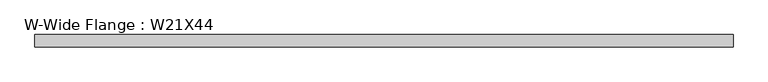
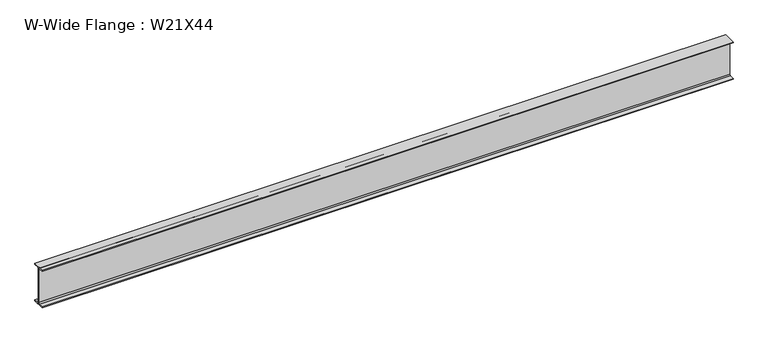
"""IFC4 building model written with IfcOpenShell, lengths in millimetres: beam geometry, W-Wide Flange : W21X44."""

import ifcopenshell
import ifcopenshell.guid

model = None  # the IFC model being written
_history = None  # IfcOwnerHistory: only IFC2X3 demands one
_inside = {}  # id of a spatial element -> (the spatial element, [elements in it])
_under = {}  # id of a project, library or spatial element -> (it, [spatial elements below it])
_declared = {}  # id of a project -> (the project, [libraries it declares])
_typed = {}  # id of a type object -> (the type object, [elements of that type])
_made_of = {}  # id of a material, layer set ... -> (it, [elements and type objects made of it])


def new_model(schema):
    """Start an empty IFC model of exactly this schema.

    Asked for "IFC4X3", IfcOpenShell would pick the latest addendum, in which some entities
    have other attributes; the version numbers below select the first issue.
    IFC2X3 requires an IfcOwnerHistory on every rooted entity: one is made here for all.
    """
    global model, _history
    if schema == "IFC4X3":
        model = ifcopenshell.file(schema_version=(4, 3, 0, 0))
    else:
        model = ifcopenshell.file(schema=schema)
    _inside.clear()
    _under.clear()
    _declared.clear()
    _typed.clear()
    _made_of.clear()
    _history = None
    if model.schema == "IFC2X3":
        org = make("IfcOrganization", Name="unknown")
        user = make(
            "IfcPersonAndOrganization",
            ThePerson=make("IfcPerson", FamilyName="unknown"),
            TheOrganization=org,
        )
        app = make(
            "IfcApplication",
            ApplicationDeveloper=org,
            Version="unknown",
            ApplicationFullName="unknown",
            ApplicationIdentifier="unknown",
        )
        _history = make(
            "IfcOwnerHistory",
            OwningUser=user,
            OwningApplication=app,
            ChangeAction="ADDED",
            CreationDate=0,
        )
    return model


def make(cls, **values):
    """One entity of the class cls with the attributes given. An attribute that is None is left unset."""
    return model.create_entity(
        cls, **{name: value for name, value in values.items() if value is not None}
    )


def rooted(cls, **values):
    """An entity with a GlobalId (a new one), such as an element, a storey or a relation."""
    return make(cls, GlobalId=ifcopenshell.guid.new(), OwnerHistory=_history, **values)


def si_unit(unit_type, name, prefix=None):
    """IfcSIUnit, for example si_unit("LENGTHUNIT", "METRE", prefix="MILLI")."""
    return make("IfcSIUnit", UnitType=unit_type, Prefix=prefix, Name=name)


def assignment(units):
    """IfcUnitAssignment: the units of a project."""
    return None if units is None else make("IfcUnitAssignment", Units=units)


def point(xyz):
    """IfcCartesianPoint."""
    return None if xyz is None else make("IfcCartesianPoint", Coordinates=xyz)


def direction(xyz):
    """IfcDirection."""
    return None if xyz is None else make("IfcDirection", DirectionRatios=xyz)


def frame(location, z_axis=None, x_axis=None):
    """IfcAxis2Placement3D, a coordinate frame: its origin and axes. An axis left out is left unset."""
    return make(
        "IfcAxis2Placement3D",
        Location=point(location),
        Axis=direction(z_axis),
        RefDirection=direction(x_axis),
    )


def frame_2d(location, x_axis=None):
    """IfcAxis2Placement2D, a coordinate frame in the plane: its origin and x axis."""
    return make(
        "IfcAxis2Placement2D", Location=point(location), RefDirection=direction(x_axis)
    )


def origin():
    """The frame at (0, 0, 0) with its axes left unset."""
    return frame((0.0, 0.0, 0.0))


def place(relative_to, where):
    """IfcLocalPlacement: puts the frame where relative to a parent placement (None: the world)."""
    return make(
        "IfcLocalPlacement", PlacementRelTo=relative_to, RelativePlacement=where
    )


def context(
    kind, dimensions, precision=None, world=None, true_north=None, identifier=None
):
    """IfcGeometricRepresentationContext, for example the 3D "Model" context."""
    return make(
        "IfcGeometricRepresentationContext",
        ContextIdentifier=identifier,
        ContextType=kind,
        CoordinateSpaceDimension=dimensions,
        Precision=precision,
        WorldCoordinateSystem=world,
        TrueNorth=true_north,
    )


def project(units=None, contexts=None):
    """IfcProject with its units and contexts."""
    return rooted(
        "IfcProject",
        Name="project",
        RepresentationContexts=contexts,
        UnitsInContext=assignment(units),
    )


def spatial(cls, under=None, at=None, **own):
    """A site, building, storey or space (cls), placed at a placement, below another one or the project."""
    s = rooted(cls, ObjectPlacement=at, **own)
    if under is not None:
        _under.setdefault(under.id(), (under, []))[1].append(s)
    return s


def polyline(points):
    """IfcPolyline through the points."""
    return make("IfcPolyline", Points=[point(p) for p in points])


def circle_curve(where, radius):
    """IfcCircle in the frame where."""
    return make("IfcCircle", Position=where, Radius=radius)


def trimmed(basis, trim1, trim2, sense, master):
    """IfcTrimmedCurve: the piece of a basis curve between two trims."""
    return make(
        "IfcTrimmedCurve",
        BasisCurve=basis,
        Trim1=trim1,
        Trim2=trim2,
        SenseAgreement=sense,
        MasterRepresentation=master,
    )


def segment(curve, same_sense, transition):
    """IfcCompositeCurveSegment."""
    return make(
        "IfcCompositeCurveSegment",
        Transition=transition,
        SameSense=same_sense,
        ParentCurve=curve,
    )


def composite_curve(segments, self_intersect=None):
    """IfcCompositeCurve: segments joined end to end."""
    return make("IfcCompositeCurve", Segments=segments, SelfIntersect=self_intersect)


def outline(outer, holes=None, kind="AREA"):
    """IfcArbitraryClosedProfileDef: a profile drawn as a closed curve; with holes, ...WithVoids."""
    if holes is None:
        return make("IfcArbitraryClosedProfileDef", ProfileType=kind, OuterCurve=outer)
    return make(
        "IfcArbitraryProfileDefWithVoids",
        ProfileType=kind,
        OuterCurve=outer,
        InnerCurves=holes,
    )


def extrude(swept, where, along, depth):
    """IfcExtrudedAreaSolid: the profile swept, set in the frame where, extruded along a direction by depth."""
    return make(
        "IfcExtrudedAreaSolid",
        SweptArea=swept,
        Position=where,
        ExtrudedDirection=direction(along),
        Depth=depth,
    )


def shape(context_of_items, identifier, shape_type, items):
    """IfcShapeRepresentation: the items that make up one representation, for example the "Body"."""
    return make(
        "IfcShapeRepresentation",
        ContextOfItems=context_of_items,
        RepresentationIdentifier=identifier,
        RepresentationType=shape_type,
        Items=items,
    )


def source(mapping_origin, context_of_items, identifier, shape_type, items):
    """IfcRepresentationMap: a shape defined once, which mapped items show again and again."""
    return make(
        "IfcRepresentationMap",
        MappingOrigin=mapping_origin,
        MappedRepresentation=shape(context_of_items, identifier, shape_type, items),
    )


def transform(
    local_origin,
    x_axis=None,
    y_axis=None,
    z_axis=None,
    scale=None,
    scale2=None,
    scale3=None,
    uniform=True,
):
    """IfcCartesianTransformationOperator3D, or its non-uniform kind. x_axis, y_axis, z_axis: its Axis1, 2, 3."""
    if uniform:
        return make(
            "IfcCartesianTransformationOperator3D",
            Axis1=direction(x_axis),
            Axis2=direction(y_axis),
            LocalOrigin=point(local_origin),
            Scale=scale,
            Axis3=direction(z_axis),
        )
    return make(
        "IfcCartesianTransformationOperator3DnonUniform",
        Axis1=direction(x_axis),
        Axis2=direction(y_axis),
        LocalOrigin=point(local_origin),
        Scale=scale,
        Axis3=direction(z_axis),
        Scale2=scale2,
        Scale3=scale3,
    )


def mapped(mapping_source, mapping_target):
    """IfcMappedItem: shows the shape of a source again, moved by a transform."""
    return make(
        "IfcMappedItem", MappingSource=mapping_source, MappingTarget=mapping_target
    )


def made_of(thing, what):
    """Note that an element or type object is made of a material, layer set ...; save() writes the relation."""
    if what is not None:
        _made_of.setdefault(what.id(), (what, []))[1].append(thing)
    return thing


def element(
    cls,
    number,
    at=None,
    inside=None,
    cuts=None,
    type_object=None,
    material=None,
    context=None,
    identifier="Body",
    shape_type=None,
    held_by="IfcProductDefinitionShape",
    body=None,
    shapes=None,
    **own,
):
    """One element of the class cls, such as IfcWall. Its Tag is "e" and its number.

    at: its placement. inside: the storey or other place that contains it. cuts: it is an
    opening in that element (IfcRelVoidsElement). A single representation is given by context,
    identifier, shape_type and body (its items); several are given by shapes. held_by: the class
    of the entity that holds the representations. save() writes the other relations.
    """
    e = rooted(cls, Tag="e%d" % number, ObjectPlacement=at, **own)
    if body is not None:
        shapes = [shape(context, identifier, shape_type, body)]
    if shapes is not None:
        e.Representation = make(held_by, Representations=shapes)
    if inside is not None:
        _inside.setdefault(inside.id(), (inside, []))[1].append(e)
    if cuts is not None:
        rooted(
            "IfcRelVoidsElement", RelatingBuildingElement=cuts, RelatedOpeningElement=e
        )
    if type_object is not None:
        _typed.setdefault(type_object.id(), (type_object, []))[1].append(e)
    return made_of(e, material)


def aggregate(whole, parts):
    """IfcRelAggregates: a whole, such as a stair, and the parts it consists of."""
    return rooted("IfcRelAggregates", RelatingObject=whole, RelatedObjects=parts)


def save(model, path):
    """Write the relations noted so far, then the file.

    IfcRelAggregates (storeys below a building ...), IfcRelContainedInSpatialStructure (elements
    in a storey), IfcRelDefinesByType, IfcRelAssociatesMaterial and IfcRelDeclares: one each for
    every whole, place, type object, material and project.
    """
    for whole, parts in _under.values():
        aggregate(whole, parts)
    for where, things in _inside.values():
        rooted(
            "IfcRelContainedInSpatialStructure",
            RelatedElements=things,
            RelatingStructure=where,
        )
    for kind, things in _typed.values():
        rooted("IfcRelDefinesByType", RelatedObjects=things, RelatingType=kind)
    for what, things in _made_of.values():
        rooted("IfcRelAssociatesMaterial", RelatedObjects=things, RelatingMaterial=what)
    for by, libraries in _declared.values():
        rooted("IfcRelDeclares", RelatingContext=by, RelatedDefinitions=libraries)
    model.write(path)


def w_wide_flange_w21x44_e2a4c59a(model_context):
    return source(origin(), model_context, "Body", "SweptSolid", [
        extrude(outline(composite_curve([segment(polyline([(82.55, -251.46), (82.55, -262.89), (-82.55, -262.89), (-82.55, -251.46), (-21.59, -251.46)]), True, "CONTINUOUS"), segment(trimmed(circle_curve(frame_2d((-21.59, -234.315)), 17.145), [point((-21.59, -251.46))], [point((-4.445, -234.315))], True, "CARTESIAN"), True, "CONTINUOUS"), segment(polyline([(-4.445, -234.315), (-4.445, 234.315)]), True, "CONTINUOUS"), segment(trimmed(circle_curve(frame_2d((-21.59, 234.315)), 17.145), [point((-4.445, 234.315))], [point((-21.59, 251.46))], True, "CARTESIAN"), True, "CONTINUOUS"), segment(polyline([(-21.59, 251.46), (-82.55, 251.46), (-82.55, 262.89), (82.55, 262.89), (82.55, 251.46), (21.59, 251.46)]), True, "CONTINUOUS"), segment(trimmed(circle_curve(frame_2d((21.59, 234.315)), 17.145), [point((21.59, 251.46))], [point((4.445, 234.315))], True, "CARTESIAN"), True, "CONTINUOUS"), segment(polyline([(4.445, 234.315), (4.445, -234.315)]), True, "CONTINUOUS"), segment(trimmed(circle_curve(frame_2d((21.59, -234.315)), 17.145), [point((4.445, -234.315))], [point((21.59, -251.46))], True, "CARTESIAN"), True, "CONTINUOUS"), segment(polyline([(21.59, -251.46), (82.55, -251.46)]), True, "CONTINUOUS")], self_intersect=False)), frame((-4501.3066406, 0.0, 0.0), z_axis=(1.0, 0.0, 0.0), x_axis=(0.0, 1.0, 0.0)), (0.0, 0.0, 1.0), 9186.7632812),
    ])


if __name__ == "__main__":
    model = new_model("IFC4")
    model_context = context("Model", 3, world=origin())
    ifc_project = project(units=[si_unit("LENGTHUNIT", "METRE", prefix="MILLI")], contexts=[model_context])
    site = spatial("IfcSite", under=ifc_project)
    building = spatial("IfcBuilding", under=site)
    placement = place(None, origin())
    w_wide_flange_w21x44_shape = w_wide_flange_w21x44_e2a4c59a(model_context)
    element("IfcBeam", 1, ObjectType="W-Wide Flange : W21X44", at=placement, inside=building, context=model_context, shape_type="MappedRepresentation", body=[
        mapped(w_wide_flange_w21x44_shape, transform((0.0, 0.0, 0.0), x_axis=(1.0, 0.0, 0.0), y_axis=(0.0, 1.0, 0.0), z_axis=(0.0, 0.0, 1.0))),
    ])
    save(model, "model.ifc")
